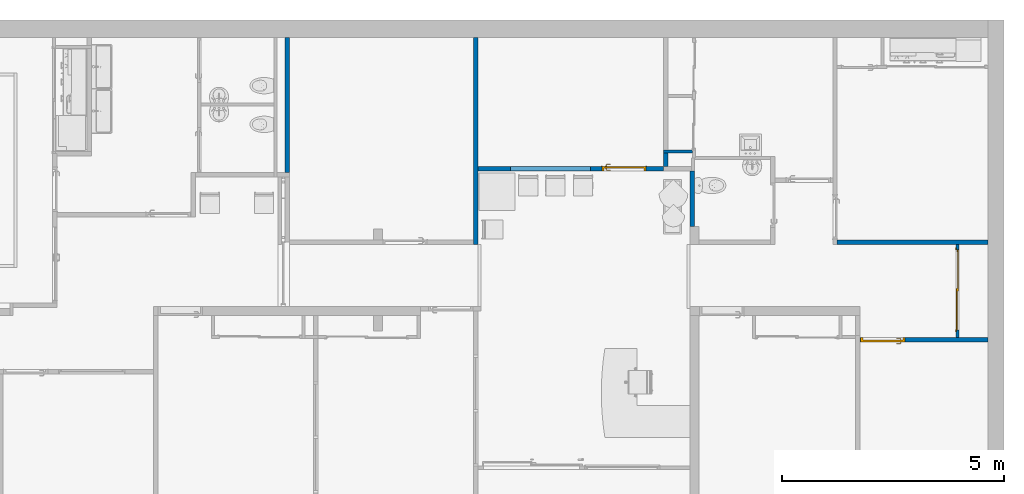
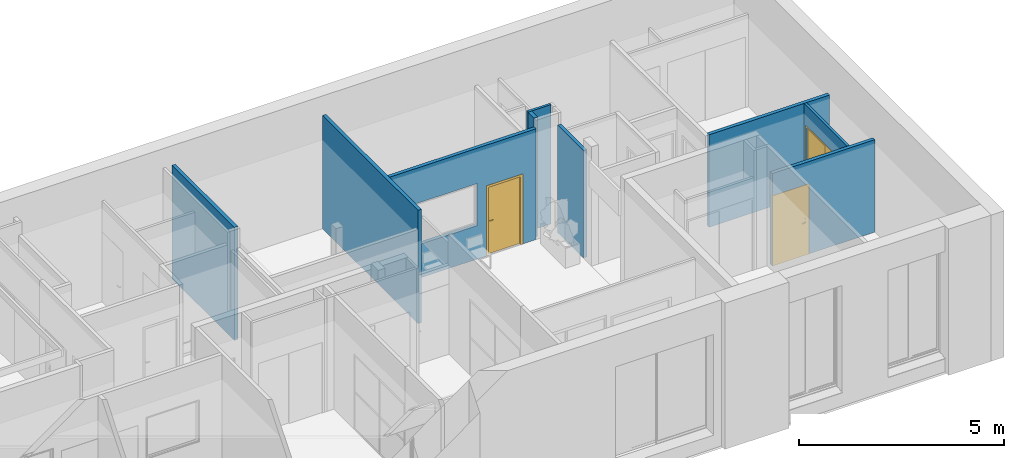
# One storey, part 15 of 32: 9 walls, 3 doors, 4 openings.
"""IFC2X3 building model written with IfcOpenShell, lengths in metres."""

import ifcopenshell
import ifcopenshell.guid

model = None  # the IFC model being written
_history = None  # IfcOwnerHistory: only IFC2X3 demands one
_inside = {}  # id of a spatial element -> (the spatial element, [elements in it])
_under = {}  # id of a project, library or spatial element -> (it, [spatial elements below it])
_declared = {}  # id of a project -> (the project, [libraries it declares])
_typed = {}  # id of a type object -> (the type object, [elements of that type])
_made_of = {}  # id of a material, layer set ... -> (it, [elements and type objects made of it])


def new_model(schema):
    """Start an empty IFC model of exactly this schema.

    Asked for "IFC4X3", IfcOpenShell would pick the latest addendum, in which some entities
    have other attributes; the version numbers below select the first issue.
    IFC2X3 requires an IfcOwnerHistory on every rooted entity: one is made here for all.
    """
    global model, _history
    if schema == "IFC4X3":
        model = ifcopenshell.file(schema_version=(4, 3, 0, 0))
    else:
        model = ifcopenshell.file(schema=schema)
    _inside.clear()
    _under.clear()
    _declared.clear()
    _typed.clear()
    _made_of.clear()
    _history = None
    if model.schema == "IFC2X3":
        org = make("IfcOrganization", Name="unknown")
        user = make(
            "IfcPersonAndOrganization",
            ThePerson=make("IfcPerson", FamilyName="unknown"),
            TheOrganization=org,
        )
        app = make(
            "IfcApplication",
            ApplicationDeveloper=org,
            Version="unknown",
            ApplicationFullName="unknown",
            ApplicationIdentifier="unknown",
        )
        _history = make(
            "IfcOwnerHistory",
            OwningUser=user,
            OwningApplication=app,
            ChangeAction="ADDED",
            CreationDate=0,
        )
    return model


def make(cls, **values):
    """One entity of the class cls with the attributes given. An attribute that is None is left unset."""
    return model.create_entity(
        cls, **{name: value for name, value in values.items() if value is not None}
    )


def entity(cls, *values):
    """Any entity or typed value of the class cls, its attributes in the order of the schema. None: left unset."""
    e = model.create_entity(cls)
    for i, value in enumerate(values):
        if value is not None:
            e[i] = value
    return e


def rooted(cls, **values):
    """An entity with a GlobalId (a new one), such as an element, a storey or a relation."""
    return make(cls, GlobalId=ifcopenshell.guid.new(), OwnerHistory=_history, **values)


def si_unit(unit_type, name, prefix=None):
    """IfcSIUnit, for example si_unit("LENGTHUNIT", "METRE", prefix="MILLI")."""
    return make("IfcSIUnit", UnitType=unit_type, Prefix=prefix, Name=name)


def converted_unit(unit_type, name, factor, base, dimensions=None, offset=None):
    """IfcConversionBasedUnit, such as the inch: factor (a typed value) times the base unit."""
    return make(
        "IfcConversionBasedUnit"
        if offset is None
        else "IfcConversionBasedUnitWithOffset",
        ConversionOffset=offset,
        Dimensions=None
        if dimensions is None
        else entity("IfcDimensionalExponents", *dimensions),
        UnitType=unit_type,
        Name=name,
        ConversionFactor=make(
            "IfcMeasureWithUnit", ValueComponent=factor, UnitComponent=base
        ),
    )


def derived_unit(unit_type, elements):
    """IfcDerivedUnit: a product of units, each with its exponent."""
    return make(
        "IfcDerivedUnit",
        Elements=[
            make("IfcDerivedUnitElement", Unit=unit, Exponent=power)
            for unit, power in elements
        ],
        UnitType=unit_type,
    )


def assignment(units):
    """IfcUnitAssignment: the units of a project."""
    return None if units is None else make("IfcUnitAssignment", Units=units)


def point(xyz):
    """IfcCartesianPoint."""
    return None if xyz is None else make("IfcCartesianPoint", Coordinates=xyz)


def direction(xyz):
    """IfcDirection."""
    return None if xyz is None else make("IfcDirection", DirectionRatios=xyz)


def frame(location, z_axis=None, x_axis=None):
    """IfcAxis2Placement3D, a coordinate frame: its origin and axes. An axis left out is left unset."""
    return make(
        "IfcAxis2Placement3D",
        Location=point(location),
        Axis=direction(z_axis),
        RefDirection=direction(x_axis),
    )


def frame_2d(location, x_axis=None):
    """IfcAxis2Placement2D, a coordinate frame in the plane: its origin and x axis."""
    return make(
        "IfcAxis2Placement2D", Location=point(location), RefDirection=direction(x_axis)
    )


def origin():
    """The frame at (0, 0, 0) with its axes left unset."""
    return frame((0.0, 0.0, 0.0))


def origin_2d_with_axis():
    """The frame at (0, 0) in the plane with the x axis (1, 0) written out."""
    return frame_2d((0.0, 0.0), x_axis=(1.0, 0.0))


def place(relative_to, where):
    """IfcLocalPlacement: puts the frame where relative to a parent placement (None: the world)."""
    return make(
        "IfcLocalPlacement", PlacementRelTo=relative_to, RelativePlacement=where
    )


def context(
    kind, dimensions, precision=None, world=None, true_north=None, identifier=None
):
    """IfcGeometricRepresentationContext, for example the 3D "Model" context."""
    return make(
        "IfcGeometricRepresentationContext",
        ContextIdentifier=identifier,
        ContextType=kind,
        CoordinateSpaceDimension=dimensions,
        Precision=precision,
        WorldCoordinateSystem=world,
        TrueNorth=true_north,
    )


def subcontext(parent, identifier, kind, view, scale=None):
    """IfcGeometricRepresentationSubContext, for example "Body" below "Model"."""
    return make(
        "IfcGeometricRepresentationSubContext",
        ContextIdentifier=identifier,
        ContextType=kind,
        ParentContext=parent,
        TargetScale=scale,
        TargetView=view,
    )


def project(units=None, contexts=None):
    """IfcProject with its units and contexts."""
    return rooted(
        "IfcProject",
        Name="project",
        RepresentationContexts=contexts,
        UnitsInContext=assignment(units),
    )


def spatial(cls, under=None, at=None, **own):
    """A site, building, storey or space (cls), placed at a placement, below another one or the project."""
    s = rooted(cls, ObjectPlacement=at, **own)
    if under is not None:
        _under.setdefault(under.id(), (under, []))[1].append(s)
    return s


def polyline(points):
    """IfcPolyline through the points."""
    return make("IfcPolyline", Points=[point(p) for p in points])


def circle_curve(where, radius):
    """IfcCircle in the frame where."""
    return make("IfcCircle", Position=where, Radius=radius)


def parameter(value):
    """IfcParameterValue: where a trimmed curve begins or ends, as a parameter of its basis curve."""
    return model.create_entity("IfcParameterValue", value)


def trimmed(basis, trim1, trim2, sense, master):
    """IfcTrimmedCurve: the piece of a basis curve between two trims."""
    return make(
        "IfcTrimmedCurve",
        BasisCurve=basis,
        Trim1=trim1,
        Trim2=trim2,
        SenseAgreement=sense,
        MasterRepresentation=master,
    )


def segment(curve, same_sense, transition):
    """IfcCompositeCurveSegment."""
    return make(
        "IfcCompositeCurveSegment",
        Transition=transition,
        SameSense=same_sense,
        ParentCurve=curve,
    )


def composite_curve(segments, self_intersect=None):
    """IfcCompositeCurve: segments joined end to end."""
    return make("IfcCompositeCurve", Segments=segments, SelfIntersect=self_intersect)


def profile(cls, at=None, kind="AREA", **sizes):
    """A parametric profile (cls). Its sizes go by their IFC names, for example OverallWidth=200.0."""
    return make(cls, ProfileType=kind, Position=at, **sizes)


def rectangle(**sizes):
    """IfcRectangleProfileDef."""
    return profile("IfcRectangleProfileDef", **sizes)


def outline(outer, holes=None, kind="AREA"):
    """IfcArbitraryClosedProfileDef: a profile drawn as a closed curve; with holes, ...WithVoids."""
    if holes is None:
        return make("IfcArbitraryClosedProfileDef", ProfileType=kind, OuterCurve=outer)
    return make(
        "IfcArbitraryProfileDefWithVoids",
        ProfileType=kind,
        OuterCurve=outer,
        InnerCurves=holes,
    )


def extrude(swept, where, along, depth):
    """IfcExtrudedAreaSolid: the profile swept, set in the frame where, extruded along a direction by depth."""
    return make(
        "IfcExtrudedAreaSolid",
        SweptArea=swept,
        Position=where,
        ExtrudedDirection=direction(along),
        Depth=depth,
    )


def faces_of(points, faces, orient=None, outer=None):
    """IfcFace entities. A face is a list of loops; a loop is a list of indices into points, from 0.

    orient and outer hold one flag for each loop. By default every Orientation is true, the
    first loop of a face is its IfcFaceOuterBound and the others are IfcFaceBound.
    """
    made = []
    for i, loops in enumerate(faces):
        bounds = []
        for j, loop in enumerate(loops):
            is_outer = j == 0 if outer is None else outer[i][j]
            bounds.append(
                make(
                    "IfcFaceOuterBound" if is_outer else "IfcFaceBound",
                    Bound=make("IfcPolyLoop", Polygon=[points[k] for k in loop]),
                    Orientation=True if orient is None else orient[i][j],
                )
            )
        made.append(make("IfcFace", Bounds=bounds))
    return made


def faceted_brep(points, faces, orient=None, outer=None, voids=None):
    """IfcFacetedBrep: a solid bounded by flat faces; with voids (closed shells), ...WithVoids."""
    shared = [point(p) for p in points]
    hull = make("IfcClosedShell", CfsFaces=faces_of(shared, faces, orient, outer))
    if voids is None:
        return make("IfcFacetedBrep", Outer=hull)
    return make(
        "IfcFacetedBrepWithVoids",
        Outer=hull,
        Voids=[
            make(cls, CfsFaces=faces_of(shared, fs, o, b)) for cls, fs, o, b in voids
        ],
    )


def shape(context_of_items, identifier, shape_type, items):
    """IfcShapeRepresentation: the items that make up one representation, for example the "Body"."""
    return make(
        "IfcShapeRepresentation",
        ContextOfItems=context_of_items,
        RepresentationIdentifier=identifier,
        RepresentationType=shape_type,
        Items=items,
    )


def source(mapping_origin, context_of_items, identifier, shape_type, items):
    """IfcRepresentationMap: a shape defined once, which mapped items show again and again."""
    return make(
        "IfcRepresentationMap",
        MappingOrigin=mapping_origin,
        MappedRepresentation=shape(context_of_items, identifier, shape_type, items),
    )


def transform(
    local_origin,
    x_axis=None,
    y_axis=None,
    z_axis=None,
    scale=None,
    scale2=None,
    scale3=None,
    uniform=True,
):
    """IfcCartesianTransformationOperator3D, or its non-uniform kind. x_axis, y_axis, z_axis: its Axis1, 2, 3."""
    if uniform:
        return make(
            "IfcCartesianTransformationOperator3D",
            Axis1=direction(x_axis),
            Axis2=direction(y_axis),
            LocalOrigin=point(local_origin),
            Scale=scale,
            Axis3=direction(z_axis),
        )
    return make(
        "IfcCartesianTransformationOperator3DnonUniform",
        Axis1=direction(x_axis),
        Axis2=direction(y_axis),
        LocalOrigin=point(local_origin),
        Scale=scale,
        Axis3=direction(z_axis),
        Scale2=scale2,
        Scale3=scale3,
    )


def mapped(mapping_source, mapping_target):
    """IfcMappedItem: shows the shape of a source again, moved by a transform."""
    return make(
        "IfcMappedItem", MappingSource=mapping_source, MappingTarget=mapping_target
    )


def material(Name=None, Category=None):
    """IfcMaterial."""
    return make("IfcMaterial", Name=Name, Category=Category)


def material_list(materials):
    """IfcMaterialList."""
    return make("IfcMaterialList", Materials=materials)


def layer(
    of_material, thickness, ventilated=None, Name=None, Category=None, Priority=None
):
    """IfcMaterialLayer: one layer of a wall or slab, of a material (None: an air gap)."""
    return make(
        "IfcMaterialLayer",
        Material=of_material,
        LayerThickness=thickness,
        IsVentilated=ventilated,
        Name=Name,
        Category=Category,
        Priority=Priority,
    )


def layer_set(layers, Name=None):
    """IfcMaterialLayerSet."""
    return make("IfcMaterialLayerSet", MaterialLayers=layers, LayerSetName=Name)


def layer_usage(for_layer_set, set_direction, sense, offset, extent=None):
    """IfcMaterialLayerSetUsage: how a layer set lies in its element."""
    return make(
        "IfcMaterialLayerSetUsage",
        ForLayerSet=for_layer_set,
        LayerSetDirection=set_direction,
        DirectionSense=sense,
        OffsetFromReferenceLine=offset,
        ReferenceExtent=extent,
    )


def made_of(thing, what):
    """Note that an element or type object is made of a material, layer set ...; save() writes the relation."""
    if what is not None:
        _made_of.setdefault(what.id(), (what, []))[1].append(thing)
    return thing


def type_object(cls, material=None, **own):
    """A type object (cls), such as IfcWallType, which elements share."""
    return made_of(rooted(cls, **own), material)


def type_shapes(of_type, sources):
    """Give a type object the sources (RepresentationMaps) that its elements show as mapped items."""
    of_type.RepresentationMaps = sources


def element(
    cls,
    number,
    at=None,
    inside=None,
    cuts=None,
    type_object=None,
    material=None,
    context=None,
    identifier="Body",
    shape_type=None,
    held_by="IfcProductDefinitionShape",
    body=None,
    shapes=None,
    **own,
):
    """One element of the class cls, such as IfcWall. Its Tag is "e" and its number.

    at: its placement. inside: the storey or other place that contains it. cuts: it is an
    opening in that element (IfcRelVoidsElement). A single representation is given by context,
    identifier, shape_type and body (its items); several are given by shapes. held_by: the class
    of the entity that holds the representations. save() writes the other relations.
    """
    e = rooted(cls, Tag="e%d" % number, ObjectPlacement=at, **own)
    if body is not None:
        shapes = [shape(context, identifier, shape_type, body)]
    if shapes is not None:
        e.Representation = make(held_by, Representations=shapes)
    if inside is not None:
        _inside.setdefault(inside.id(), (inside, []))[1].append(e)
    if cuts is not None:
        rooted(
            "IfcRelVoidsElement", RelatingBuildingElement=cuts, RelatedOpeningElement=e
        )
    if type_object is not None:
        _typed.setdefault(type_object.id(), (type_object, []))[1].append(e)
    return made_of(e, material)


def fill(opening, filler):
    """IfcRelFillsElement: the door or window that sits in an opening."""
    return rooted(
        "IfcRelFillsElement",
        RelatingOpeningElement=opening,
        RelatedBuildingElement=filler,
    )


def aggregate(whole, parts):
    """IfcRelAggregates: a whole, such as a stair, and the parts it consists of."""
    return rooted("IfcRelAggregates", RelatingObject=whole, RelatedObjects=parts)


def save(model, path):
    """Write the relations noted so far, then the file.

    IfcRelAggregates (storeys below a building ...), IfcRelContainedInSpatialStructure (elements
    in a storey), IfcRelDefinesByType, IfcRelAssociatesMaterial and IfcRelDeclares: one each for
    every whole, place, type object, material and project.
    """
    for whole, parts in _under.values():
        aggregate(whole, parts)
    for where, things in _inside.values():
        rooted(
            "IfcRelContainedInSpatialStructure",
            RelatedElements=things,
            RelatingStructure=where,
        )
    for kind, things in _typed.values():
        rooted("IfcRelDefinesByType", RelatedObjects=things, RelatingType=kind)
    for what, things in _made_of.values():
        rooted("IfcRelAssociatesMaterial", RelatedObjects=things, RelatingMaterial=what)
    for by, libraries in _declared.values():
        rooted("IfcRelDeclares", RelatingContext=by, RelatedDefinitions=libraries)
    model.write(path)


model = new_model("IFC2X3")

# Units and contexts
model_context = context("Model", 3, precision=1e-05, world=origin(), true_north=direction((6.12303176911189e-17, 1.0)))
plan_context = context("Plan", 3, precision=1e-05, world=origin(), true_north=direction((6.12303176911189e-17, 1.0)))
body_context = subcontext(model_context, "Body", "Model", "MODEL_VIEW")
ifc_project = project(units=[si_unit("LENGTHUNIT", "METRE"), si_unit("AREAUNIT", "SQUARE_METRE"), si_unit("VOLUMEUNIT", "CUBIC_METRE"), converted_unit("PLANEANGLEUNIT", "DEGREE", entity("IfcRatioMeasure", 0.0174532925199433), si_unit("PLANEANGLEUNIT", "RADIAN"), dimensions=[0, 0, 0, 0, 0, 0, 0]), si_unit("MASSUNIT", "GRAM", prefix="KILO"), derived_unit("MASSDENSITYUNIT", [(si_unit("MASSUNIT", "GRAM", prefix="KILO"), 1), (si_unit("LENGTHUNIT", "METRE"), -3)]), derived_unit("MOMENTOFINERTIAUNIT", [(si_unit("LENGTHUNIT", "METRE"), 4)]), si_unit("TIMEUNIT", "SECOND"), si_unit("FREQUENCYUNIT", "HERTZ"), si_unit("THERMODYNAMICTEMPERATUREUNIT", "DEGREE_CELSIUS"), derived_unit("THERMALTRANSMITTANCEUNIT", [(si_unit("MASSUNIT", "GRAM", prefix="KILO"), 1), (si_unit("THERMODYNAMICTEMPERATUREUNIT", "KELVIN"), -1), (si_unit("TIMEUNIT", "SECOND"), -3)]), derived_unit("VOLUMETRICFLOWRATEUNIT", [(si_unit("LENGTHUNIT", "METRE"), 3), (si_unit("TIMEUNIT", "SECOND"), -1)]), si_unit("ELECTRICCURRENTUNIT", "AMPERE"), si_unit("ELECTRICVOLTAGEUNIT", "VOLT"), si_unit("POWERUNIT", "WATT"), si_unit("FORCEUNIT", "NEWTON", prefix="KILO"), si_unit("ILLUMINANCEUNIT", "LUX"), si_unit("LUMINOUSFLUXUNIT", "LUMEN"), si_unit("LUMINOUSINTENSITYUNIT", "CANDELA"), derived_unit("USERDEFINED", [(si_unit("MASSUNIT", "GRAM", prefix="KILO"), -1), (si_unit("LENGTHUNIT", "METRE"), -2), (si_unit("TIMEUNIT", "SECOND"), 3), (si_unit("LUMINOUSFLUXUNIT", "LUMEN"), 1)]), derived_unit("LINEARVELOCITYUNIT", [(si_unit("LENGTHUNIT", "METRE"), 1), (si_unit("TIMEUNIT", "SECOND"), -1)]), si_unit("PRESSUREUNIT", "PASCAL"), derived_unit("USERDEFINED", [(si_unit("LENGTHUNIT", "METRE"), -2), (si_unit("MASSUNIT", "GRAM", prefix="KILO"), 1), (si_unit("TIMEUNIT", "SECOND"), -2)]), derived_unit("LINEARFORCEUNIT", [(si_unit("MASSUNIT", "GRAM", prefix="KILO"), 1), (si_unit("LENGTHUNIT", "METRE"), 1), (si_unit("TIMEUNIT", "SECOND"), -2), (si_unit("LENGTHUNIT", "METRE"), -1)]), derived_unit("PLANARFORCEUNIT", [(si_unit("MASSUNIT", "GRAM", prefix="KILO"), 1), (si_unit("LENGTHUNIT", "METRE"), 1), (si_unit("TIMEUNIT", "SECOND"), -2), (si_unit("LENGTHUNIT", "METRE"), -2)])], contexts=[model_context, plan_context])

# Site, building, storey
site_placement = place(None, origin())
site = spatial("IfcSite", under=ifc_project, at=site_placement, Name="Default", CompositionType="ELEMENT")
building_placement = place(site_placement, origin())
building = spatial("IfcBuilding", under=site, at=building_placement, CompositionType="ELEMENT")
storey_placement = place(building_placement, origin())
storey = spatial("IfcBuildingStorey", under=building, at=storey_placement, Name="0 Mairie RDC 0.00", CompositionType="ELEMENT", Elevation=-1.94916083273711e-14)

# Walls
ifc_material_1 = material(Name="Plâtre")
ifc_layer_1 = layer(ifc_material_1, 0.0125)
ifc_layer_2 = layer(ifc_material_1, 0.0125)
ifc_material_2 = material(Name="Maçonnerie - Isolant")
ifc_layer_3 = layer(ifc_material_2, 0.05)
ifc_layer_4 = layer(ifc_material_1, 0.0125)
ifc_layer_5 = layer(ifc_material_1, 0.0125)
ifc_layer_set_1 = layer_set([ifc_layer_1, ifc_layer_2, ifc_layer_3, ifc_layer_4, ifc_layer_5], Name="Mur de base:A cloison placostil 98 sèche")
ifc_layer_usage_1 = layer_usage(ifc_layer_set_1, "AXIS2", "NEGATIVE", 0.05)
wall_type_1 = type_object("IfcWallType", Name="Murs : Mur de base : A cloison placostil 98 sèche", PredefinedType="STANDARD", material=ifc_layer_set_1)
wall_1_placement = place(storey_placement, frame((-9.75844714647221, -6.63253403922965, 0.0), z_axis=(0.0, 0.0, 1.0), x_axis=(0.0, 1.0, 0.0)))
element("IfcWallStandardCase", 1, at=wall_1_placement, inside=storey, type_object=wall_type_1, material=ifc_layer_usage_1, Name="Murs : Mur de base : A cloison placostil 98 sèche", ObjectType="Mur de base:A cloison placostil 98 sèche", context=body_context, shape_type="SweptSolid", body=[
    extrude(rectangle(XDim=4.65977029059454, YDim=0.0999999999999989, at=frame_2d((2.32988514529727, 0.0), x_axis=(-1.0, 0.0))), origin(), (0.0, 0.0, 1.0), 3.37),
])
ifc_layer_usage_2 = layer_usage(ifc_layer_set_1, "AXIS2", "POSITIVE", -0.05)
wall_2_placement = place(storey_placement, frame((-1.61775525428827, -6.58378247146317, 0.0)))
element("IfcWallStandardCase", 2, at=wall_2_placement, inside=storey, type_object=wall_type_1, material=ifc_layer_usage_2, Name="Murs : Mur de base : A cloison placostil 98 sèche", ObjectType="Mur de base:A cloison placostil 98 sèche", context=body_context, shape_type="SweptSolid", body=[
    extrude(rectangle(XDim=3.39537085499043, YDim=0.0999999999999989, at=frame_2d((1.69768542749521, 0.0), x_axis=(-1.0, 0.0))), origin(), (0.0, 0.0, 1.0), 2.75),
])

# Wall, opening, door
ifc_layer_usage_3 = layer_usage(ifc_layer_set_1, "AXIS2", "POSITIVE", -0.05)
wall_3_placement = place(storey_placement, frame((-1.10639222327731, -8.78110384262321, 0.0)))
wall_3 = element("IfcWallStandardCase", 3, at=wall_3_placement, inside=storey, type_object=wall_type_1, material=ifc_layer_usage_3, Name="Murs : Mur de base : A cloison placostil 98 sèche", ObjectType="Mur de base:A cloison placostil 98 sèche", context=body_context, shape_type="SweptSolid", body=[
    extrude(rectangle(XDim=2.88400782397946, YDim=0.0999999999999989, at=frame_2d((1.44200391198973, 0.0), x_axis=(-1.0, 0.0))), origin(), (0.0, 0.0, 1.0), 2.75),
])
opening_1_placement = place(wall_3_placement, frame((1.01499999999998, 0.0499999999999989, 0.0)))
opening_1 = element("IfcOpeningElement", 4, at=opening_1_placement, cuts=wall_3, Name="Portes : Int. Simple : PP (0.89m x 2.04m):1", ObjectType="Opening", context=body_context, shape_type="SweptSolid", body=[
    extrude(rectangle(XDim=2.075, YDim=1.0, at=frame_2d((1.0375, 0.5), x_axis=(1.0, 0.0))), frame((0.0, 0.0, 0.0), z_axis=(0.0, -1.0, 0.0), x_axis=(0.0, 0.0, 1.0)), (0.0, 0.0, 1.0), 0.1),
])
ifc_material_3 = material(Name="Finition Peinture - Blanc satiné")
ifc_material_4 = material(Name="Bois - Cadre de porte")
ifc_material_list_1 = material_list([ifc_material_3, ifc_material_4])
ifc_material_5 = material(Name="Bois - Panneau de porte")
ifc_material_list_2 = material_list([ifc_material_5, ifc_material_4, ifc_material_3])
door_style_1 = type_object("IfcDoorStyle", Name="Portes : Int. Simple : PP (0.89m x 2.04m)", ConstructionType="NOTDEFINED", OperationType="NOTDEFINED", ParameterTakesPrecedence=False, Sizeable=False, material=ifc_material_list_2)
shared_shape_1 = source(origin(), body_context, "Body", "SolidModel", [
    extrude(outline(composite_curve([segment(polyline([(-0.104999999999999, -0.02), (0.104999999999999, -0.0199999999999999)]), True, "CONTINUOUS"), segment(trimmed(circle_curve(frame_2d((0.0703589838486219, 0.0), x_axis=(0.0, 1.0)), 0.0399999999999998), [parameter(240.000000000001)], [parameter(300.0)], True, "PARAMETER"), True, "CONTINUOUS"), segment(polyline([(0.104999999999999, 0.0199999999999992), (-0.105, 0.0200000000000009)]), True, "CONTINUOUS"), segment(trimmed(circle_curve(frame_2d((-0.0703589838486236, 0.0), x_axis=(0.0, 1.0)), 0.0399999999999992), [parameter(59.9999999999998)], [parameter(120.0)], True, "PARAMETER"), True, "CONTINUOUS")], self_intersect=False)), frame((0.975000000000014, 0.0, 0.975000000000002), z_axis=(0.0, -1.0, 0.0), x_axis=(0.0, 0.0, 1.0)), (0.0, 0.0, 1.0), 0.005),
    extrude(outline(composite_curve([segment(polyline([(-0.105, -0.02), (0.105, -0.02)]), True, "CONTINUOUS"), segment(trimmed(circle_curve(frame_2d((0.0703589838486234, 0.0), x_axis=(0.0, -1.0)), 0.0399999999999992), [parameter(59.9999999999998)], [parameter(120.0)], True, "PARAMETER"), True, "CONTINUOUS"), segment(polyline([(0.104999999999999, 0.0200000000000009), (-0.105, 0.0199999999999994)]), True, "CONTINUOUS"), segment(trimmed(circle_curve(frame_2d((-0.0703589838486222, 0.0), x_axis=(0.0, -1.0)), 0.0399999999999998), [parameter(240.0)], [parameter(300.0)], True, "PARAMETER"), True, "CONTINUOUS")], self_intersect=False)), frame((0.975000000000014, 0.0449999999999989, 0.975000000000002), z_axis=(0.0, -1.0, 0.0), x_axis=(0.0, 0.0, -1.0)), (0.0, 0.0, 1.0), 0.00500000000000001),
    extrude(rectangle(XDim=0.93, YDim=0.04, at=origin_2d_with_axis()), frame((0.570000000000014, 0.02, 0.0), z_axis=(0.0, 0.0, 1.0), x_axis=(-1.0, 0.0, 0.0)), (0.0, 0.0, 1.0), 2.04),
    extrude(outline(polyline([(0.484999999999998, -1.03750000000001), (0.514999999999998, -1.03750000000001), (0.514999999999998, 1.0525), (-0.514999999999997, 1.0525), (-0.514999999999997, -1.0375), (-0.484999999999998, -1.03750000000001), (-0.484999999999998, 1.02250000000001), (0.484999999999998, 1.02250000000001), (0.484999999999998, -1.03750000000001)])), frame((0.570000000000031, 0.105000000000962, 1.03750000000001), z_axis=(0.0, -1.0, 0.0), x_axis=(1.0, 0.0, 0.0)), (0.0, 0.0, 1.0), 0.00500000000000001),
    extrude(outline(polyline([(0.484999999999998, -1.03750000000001), (0.514999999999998, -1.03750000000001), (0.514999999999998, 1.0525), (-0.514999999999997, 1.0525), (-0.514999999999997, -1.0375), (-0.484999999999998, -1.03750000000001), (-0.484999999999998, 1.02250000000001), (0.484999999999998, 1.02250000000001), (0.484999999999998, -1.03750000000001)])), frame((0.570000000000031, 0.0, 1.03750000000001), z_axis=(0.0, -1.0, 0.0), x_axis=(1.0, 0.0, 0.0)), (0.0, 0.0, 1.0), 0.005),
    faceted_brep([(0.972974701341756, -0.0050000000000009, 1.00778044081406), (0.977025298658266, -0.00500000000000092, 1.00778044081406), (0.981000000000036, -0.00500000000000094, 1.00699999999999), (0.981000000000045, -0.00500000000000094, 0.992999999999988), (0.977025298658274, -0.00500000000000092, 0.99221955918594), (0.972974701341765, -0.0050000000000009, 0.992219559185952), (0.968999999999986, -0.00500000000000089, 0.993000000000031), (0.968999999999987, -0.00500000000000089, 1.007), (0.977025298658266, -0.0310045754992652, 1.00778044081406), (0.981000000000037, -0.0326509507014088, 1.007), (0.972974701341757, -0.0293267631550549, 1.00778044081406), (0.959298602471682, -0.0430028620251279, 1.00778044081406), (0.960976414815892, -0.0470534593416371, 1.00778044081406), (0.968999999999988, -0.0276803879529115, 1.007), (0.968999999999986, -0.0276803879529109, 0.993000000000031), (0.972974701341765, -0.0293267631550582, 0.992219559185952), (0.977025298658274, -0.0310045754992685, 0.99221955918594), (0.960976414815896, -0.0470534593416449, 0.99221955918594), (0.959298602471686, -0.0430028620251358, 0.992219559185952), (0.981000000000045, -0.0326509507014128, 0.992999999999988), (0.962622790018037, -0.051028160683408, 1.007), (0.957652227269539, -0.0390281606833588, 1.007), (0.957652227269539, -0.0390281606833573, 0.993000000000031), (0.96262279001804, -0.0510281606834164, 0.992999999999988), (0.874981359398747, -0.0510281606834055, 1.007), (0.874981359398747, -0.0470534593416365, 1.00778044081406), (0.874981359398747, -0.0430028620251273, 1.00778044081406), (0.874981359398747, -0.0390281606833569, 1.00699999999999), (0.874981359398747, -0.0390281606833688, 0.993000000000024), (0.874981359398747, -0.0430028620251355, 0.992219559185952), (0.874981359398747, -0.0470534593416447, 0.99221955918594), (0.874981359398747, -0.0510281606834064, 0.992999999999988), (0.917139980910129, -0.045028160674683, 1.0078786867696), (0.922692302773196, -0.051028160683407, 1.007), (0.916316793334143, -0.039028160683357, 1.007), (0.916316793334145, -0.0390281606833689, 0.993000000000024), (0.917139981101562, -0.0450281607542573, 0.992121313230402), (0.922692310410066, -0.0510281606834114, 0.992999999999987)], [[[0, 1, 2, 3, 4, 5, 6, 7]], [[2, 1, 8, 9]], [[1, 0, 10, 11, 12, 8]], [[0, 7, 13, 10]], [[14, 13, 7, 6]], [[5, 15, 14, 6]], [[5, 4, 16, 17, 18, 15]], [[3, 19, 16, 4]], [[9, 19, 3, 2]], [[9, 8, 12, 20]], [[10, 13, 21, 11]], [[22, 21, 13, 14]], [[14, 15, 18, 22]], [[16, 19, 23, 17]], [[20, 23, 19, 9]], [[24, 25, 26, 27, 28, 29, 30, 31]], [[32, 25, 33]], [[33, 25, 24]], [[33, 20, 12]], [[11, 34, 32]], [[34, 11, 21]], [[27, 26, 34]], [[32, 26, 25]], [[32, 34, 26]], [[32, 33, 12]], [[11, 32, 12]], [[21, 22, 35, 28, 27, 34]], [[36, 29, 35]], [[30, 36, 37]], [[18, 35, 22]], [[29, 28, 35]], [[30, 37, 31]], [[37, 17, 23]], [[36, 17, 37]], [[36, 18, 17]], [[36, 35, 18]], [[29, 36, 30]], [[23, 20, 33, 24, 31, 37]]]),
    faceted_brep([(0.972974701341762, 0.0449999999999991, 0.992219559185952), (0.977025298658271, 0.0449999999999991, 0.99221955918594), (0.981000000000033, 0.044999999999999, 0.992999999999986), (0.981000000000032, 0.044999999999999, 1.007), (0.977025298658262, 0.0449999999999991, 1.00778044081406), (0.972974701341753, 0.0449999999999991, 1.00778044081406), (0.968999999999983, 0.0449999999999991, 1.007), (0.968999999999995, 0.0449999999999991, 0.993000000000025), (0.968999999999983, 0.067485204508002, 1.007), (0.968999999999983, 0.0674852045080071, 0.993000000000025), (0.972974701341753, 0.0691315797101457, 1.00778044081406), (0.977025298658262, 0.070809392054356, 1.00778044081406), (0.960838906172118, 0.0869957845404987, 1.00778044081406), (0.959161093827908, 0.0829451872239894, 1.00778044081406), (0.981000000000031, 0.0724557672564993, 1.007), (0.981000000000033, 0.0724557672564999, 0.992999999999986), (0.977025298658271, 0.0708093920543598, 0.99221955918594), (0.972974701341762, 0.0691315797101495, 0.992219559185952), (0.959161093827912, 0.0829451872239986, 0.992219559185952), (0.960838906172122, 0.0869957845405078, 0.99221955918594), (0.957514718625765, 0.0789704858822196, 1.007), (0.957514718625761, 0.0789704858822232, 0.993000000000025), (0.962485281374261, 0.0909704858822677, 1.007), (0.962485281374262, 0.0909704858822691, 0.992999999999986), (0.874954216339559, 0.0829451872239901, 1.00778044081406), (0.874954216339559, 0.0869957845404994, 1.00778044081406), (0.874954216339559, 0.0909704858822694, 1.007), (0.874954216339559, 0.0909704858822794, 0.992999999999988), (0.874954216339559, 0.086995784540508, 0.99221955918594), (0.874954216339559, 0.0829451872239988, 0.992219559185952), (0.874954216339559, 0.0789704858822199, 0.993000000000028), (0.874954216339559, 0.0789704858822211, 1.007), (0.916234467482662, 0.0789704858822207, 1.007), (0.916234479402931, 0.0789704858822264, 0.993000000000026), (0.917057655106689, 0.0849704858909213, 1.0078786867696), (0.922554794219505, 0.0909704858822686, 1.007), (0.922554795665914, 0.0909704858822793, 0.992999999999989), (0.917057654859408, 0.0849704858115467, 0.992121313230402)], [[[0, 1, 2, 3, 4, 5, 6, 7]], [[8, 9, 7, 6]], [[5, 10, 8, 6]], [[5, 4, 11, 12, 13, 10]], [[3, 14, 11, 4]], [[14, 3, 2, 15]], [[2, 1, 16, 15]], [[1, 0, 17, 18, 19, 16]], [[0, 7, 9, 17]], [[20, 21, 9, 8]], [[8, 10, 13, 20]], [[14, 22, 12, 11]], [[23, 22, 14, 15]], [[15, 16, 19, 23]], [[17, 9, 21, 18]], [[24, 25, 26, 27, 28, 29, 30, 31]], [[21, 20, 32, 31, 30, 33]], [[34, 24, 32]], [[25, 34, 35]], [[13, 32, 20]], [[24, 31, 32]], [[25, 35, 26]], [[35, 12, 22]], [[34, 12, 35]], [[34, 13, 12]], [[34, 32, 13]], [[24, 34, 25]], [[22, 23, 36, 27, 26, 35]], [[37, 28, 36]], [[36, 28, 27]], [[36, 23, 19]], [[18, 33, 37]], [[33, 18, 21]], [[30, 29, 33]], [[37, 29, 28]], [[37, 33, 29]], [[37, 36, 19]], [[18, 37, 19]]]),
    faceted_brep([(1.07000000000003, 0.0, 0.0), (1.03500000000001, 0.0, 0.0), (1.03500000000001, 0.040000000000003, 0.0), (1.02000000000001, 0.040000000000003, 0.0), (1.02000000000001, 0.100000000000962, 0.0), (1.07000000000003, 0.100000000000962, 0.0), (1.07000000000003, 0.100000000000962, 2.07500000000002), (1.07000000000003, 0.0, 2.07500000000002), (1.02000000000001, 0.100000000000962, 2.025), (0.120000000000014, 0.100000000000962, 2.025), (0.120000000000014, 0.100000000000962, 0.0), (0.0699999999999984, 0.100000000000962, 0.0), (0.0699999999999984, 0.100000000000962, 2.07500000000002), (1.02000000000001, 0.040000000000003, 2.025), (1.03500000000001, 0.040000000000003, 2.04), (0.105000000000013, 0.040000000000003, 2.04), (0.105000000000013, 0.040000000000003, 0.0), (0.120000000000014, 0.040000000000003, 0.0), (0.120000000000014, 0.040000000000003, 2.025), (1.03500000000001, 0.0, 2.04), (0.0699999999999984, 0.0, 2.07500000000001), (0.0699999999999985, 0.0, 0.0), (0.105000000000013, 0.0, 0.0), (0.105000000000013, 0.0, 2.04)], [[[0, 1, 2, 3, 4, 5]], [[5, 6, 7, 0]], [[4, 8, 9, 10, 11, 12, 6, 5]], [[3, 13, 8, 4]], [[2, 14, 15, 16, 17, 18, 13, 3]], [[1, 19, 14, 2]], [[0, 7, 20, 21, 22, 23, 19, 1]], [[12, 11, 21, 20]], [[21, 11, 10, 17, 16, 22]], [[18, 17, 10, 9]], [[23, 22, 16, 15]], [[6, 12, 20, 7]], [[13, 18, 9, 8]], [[19, 23, 15, 14]]]),
])
type_shapes(door_style_1, [shared_shape_1])
door_1_placement = place(opening_1_placement, frame((-1.07000000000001, -0.0999999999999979, 0.0)))
door_1 = element("IfcDoor", 5, at=door_1_placement, inside=storey, type_object=door_style_1, material=ifc_material_list_1, Name="Portes : Int. Simple : PP (0.89m x 2.04m)", ObjectType="Int. Simple:PP (0.89m x 2.04m)", OverallHeight=2.075, OverallWidth=1.0, context=body_context, shape_type="MappedRepresentation", body=[
    mapped(shared_shape_1, transform((0.0, 0.0, 0.0), scale=1.0)),
])
fill(opening_1, door_1)

# Wall, openings, door
ifc_layer_usage_4 = layer_usage(ifc_layer_set_1, "AXIS2", "POSITIVE", -0.05)
wall_4_placement = place(storey_placement, frame((-9.70844714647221, -4.92821541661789, 0.0)))
wall_4 = element("IfcWallStandardCase", 6, at=wall_4_placement, inside=storey, type_object=wall_type_1, material=ifc_layer_usage_4, Name="Murs : Mur de base : A cloison placostil 98 sèche", ObjectType="Mur de base:A cloison placostil 98 sèche", context=body_context, shape_type="SweptSolid", body=[
    extrude(rectangle(XDim=4.18095044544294, YDim=0.0999999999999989, at=frame_2d((2.09047522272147, 0.0), x_axis=(-1.0, 0.0))), origin(), (0.0, 0.0, 1.0), 3.3),
])
opening_2_placement = place(wall_4_placement, frame((2.79103046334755, -0.05, 0.0)))
opening_2 = element("IfcOpeningElement", 7, at=opening_2_placement, cuts=wall_4, Name="Portes : Int. Simple : PP (0.89m x 2.04m):1", ObjectType="Opening", context=body_context, shape_type="SweptSolid", body=[
    extrude(rectangle(XDim=2.075, YDim=1.0, at=frame_2d((1.0375, 0.5), x_axis=(1.0, 0.0))), frame((0.0, 0.0, 0.0), z_axis=(0.0, 1.0, 0.0), x_axis=(0.0, 0.0, 1.0)), (0.0, 0.0, 1.0), 0.1),
])
opening_3_placement = place(wall_4_placement, frame((0.733950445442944, -0.0499999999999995, 1.0)))
element("IfcOpeningElement", 8, at=opening_3_placement, cuts=wall_4, Name="Fenêtres : WINDSOR Window Fixed Signature : Fixed-Window_B02M1S100100-White 1.25x1.00:1", ObjectType="Opening", context=body_context, shape_type="SweptSolid", body=[
    extrude(rectangle(XDim=1.25, YDim=1.8, at=frame_2d((0.624999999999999, 0.9), x_axis=(-1.0, 0.0))), frame((0.0, 0.0, 0.0), z_axis=(0.0, 1.0, 0.0), x_axis=(0.0, 0.0, 1.0)), (0.0, 0.0, 1.0), 0.1),
])
ifc_material_list_3 = material_list([ifc_material_3, ifc_material_4])
door_2_placement = place(opening_2_placement, frame((1.07000000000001, 0.0999999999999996, 0.0), z_axis=(0.0, 0.0, 1.0), x_axis=(-1.0, 0.0, 0.0)))
door_2 = element("IfcDoor", 9, at=door_2_placement, inside=storey, type_object=door_style_1, material=ifc_material_list_3, Name="Portes : Int. Simple : PP (0.89m x 2.04m)", ObjectType="Int. Simple:PP (0.89m x 2.04m)", OverallHeight=2.075, OverallWidth=1.0, context=body_context, shape_type="MappedRepresentation", body=[
    mapped(shared_shape_1, transform((0.0, 0.0, 0.0), scale=1.0)),
])
fill(opening_2, door_2)

# Walls
ifc_layer_usage_5 = layer_usage(ifc_layer_set_1, "AXIS2", "NEGATIVE", 0.05)
wall_5_placement = place(storey_placement, frame((-4.8774967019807, -6.23378247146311, 0.0), z_axis=(0.0, 0.0, 1.0), x_axis=(0.0, 1.0, 0.0)))
element("IfcWallStandardCase", 10, at=wall_5_placement, inside=storey, type_object=wall_type_1, material=ifc_layer_usage_5, Name="Murs : Mur de base : A cloison placostil 98 sèche", ObjectType="Mur de base:A cloison placostil 98 sèche", context=body_context, shape_type="SweptSolid", body=[
    extrude(rectangle(XDim=1.25556705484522, YDim=0.0999999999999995, at=frame_2d((0.627783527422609, -2.70616862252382e-16), x_axis=(-1.0, 0.0))), origin(), (0.0, 0.0, 1.0), 3.2),
])
ifc_layer_usage_6 = layer_usage(ifc_layer_set_1, "AXIS2", "NEGATIVE", 0.05)
wall_6_placement = place(storey_placement, frame((-5.47749670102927, -4.87821541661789, 0.0), z_axis=(0.0, 0.0, 1.0), x_axis=(0.0, 1.0, 0.0)))
element("IfcWallStandardCase", 11, at=wall_6_placement, inside=storey, type_object=wall_type_1, material=ifc_layer_usage_6, Name="Murs : Mur de base : A cloison placostil 98 sèche", ObjectType="Mur de base:A cloison placostil 98 sèche", context=body_context, shape_type="SweptSolid", body=[
    extrude(rectangle(XDim=0.297409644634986, YDim=0.100000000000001, at=frame_2d((0.148704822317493, 0.0), x_axis=(-1.0, 0.0))), origin(), (0.0, 0.0, 1.0), 3.55),
])
ifc_layer_usage_7 = layer_usage(ifc_layer_set_1, "AXIS2", "NEGATIVE", 0.05)
wall_7_placement = place(storey_placement, frame((-13.9967760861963, -1.97276374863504, 0.0), z_axis=(0.0, 0.0, 1.0), x_axis=(0.0, -1.0, 0.0)))
element("IfcWallStandardCase", 12, at=wall_7_placement, inside=storey, type_object=wall_type_1, material=ifc_layer_usage_7, Name="Murs : Mur de base : A cloison placostil 98 sèche", ObjectType="Mur de base:A cloison placostil 98 sèche", context=body_context, shape_type="SweptSolid", body=[
    extrude(rectangle(XDim=3.0471581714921, YDim=0.0999999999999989, at=frame_2d((1.52357908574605, 0.0), x_axis=(-1.0, 0.0))), origin(), (0.0, 0.0, 1.0), 3.37),
])
ifc_layer_6 = layer(ifc_material_1, 0.01)
ifc_layer_7 = layer(ifc_material_2, 0.05)
ifc_layer_8 = layer(ifc_material_1, 0.01)
ifc_layer_set_2 = layer_set([ifc_layer_6, ifc_layer_7, ifc_layer_8], Name="Mur de base:A cloison placostil 72 sèche")
ifc_layer_usage_8 = layer_usage(ifc_layer_set_2, "AXIS2", "NEGATIVE", 0.035)
wall_type_2 = type_object("IfcWallType", Name="Murs : Mur de base : A cloison placostil 72 sèche", PredefinedType="STANDARD", material=ifc_layer_set_2)
wall_8_placement = place(storey_placement, frame((-5.52749670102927, -4.54580577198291, 0.0)))
element("IfcWallStandardCase", 13, at=wall_8_placement, inside=storey, type_object=wall_type_2, material=ifc_layer_usage_8, Name="Murs : Mur de base : A cloison placostil 72 sèche", ObjectType="Mur de base:A cloison placostil 72 sèche", context=body_context, shape_type="SweptSolid", body=[
    extrude(rectangle(XDim=0.64999999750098, YDim=0.0700000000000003, at=frame_2d((0.32499999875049, 0.0), x_axis=(-1.0, 0.0))), origin(), (0.0, 0.0, 1.0), 3.55),
])

# Wall, opening, door
ifc_layer_usage_9 = layer_usage(ifc_layer_set_2, "AXIS2", "NEGATIVE", 0.035)
wall_9_placement = place(storey_placement, frame((1.09290125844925, -8.73110384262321, 0.0), z_axis=(0.0, 0.0, 1.0), x_axis=(0.0, 1.0, 0.0)))
wall_9 = element("IfcWallStandardCase", 14, at=wall_9_placement, inside=storey, type_object=wall_type_2, material=ifc_layer_usage_9, Name="Murs : Mur de base : A cloison placostil 72 sèche", ObjectType="Mur de base:A cloison placostil 72 sèche", context=body_context, shape_type="SweptSolid", body=[
    extrude(rectangle(XDim=2.09732137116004, YDim=0.0700000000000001, at=frame_2d((1.04866068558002, 0.0), x_axis=(-1.0, 0.0))), origin(), (0.0, 0.0, 1.0), 2.75),
])
opening_4_placement = place(wall_9_placement, frame((0.173660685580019, -0.0350000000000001, 0.0)))
opening_4 = element("IfcOpeningElement", 15, at=opening_4_placement, cuts=wall_9, Name="Portes : Placard coulissante - 2 panneaux : Placard coulissante - 2 panneaux 1.80:1", ObjectType="Opening", context=body_context, shape_type="SweptSolid", body=[
    extrude(rectangle(XDim=2.09999999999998, YDim=1.8, at=frame_2d((1.04999999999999, 0.9), x_axis=(1.0, 0.0))), frame((0.0, 0.0, 0.0), z_axis=(0.0, 1.0, 0.0), x_axis=(0.0, 0.0, 1.0)), (0.0, 0.0, 1.0), 0.07),
])
ifc_material_6 = material(Name="Placard - Profil")
ifc_material_7 = material(Name="Placard - Encadrement")
ifc_material_8 = material(Name="Placard - Porte")
ifc_material_list_4 = material_list([ifc_material_6, ifc_material_7, ifc_material_8])
ifc_material_list_5 = material_list([ifc_material_6, ifc_material_6, ifc_material_6, ifc_material_6, ifc_material_7, ifc_material_8, ifc_material_8])
door_style_2 = type_object("IfcDoorStyle", Name="Portes : Placard coulissante - 2 panneaux : Placard coulissante - 2 panneaux 1.80", ConstructionType="NOTDEFINED", OperationType="SLIDING_TO_RIGHT", ParameterTakesPrecedence=False, Sizeable=False, material=ifc_material_list_5)
shared_shape_2 = source(origin(), body_context, "Body", "SweptSolid", [
    extrude(outline(composite_curve([segment(polyline([(-0.0250000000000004, -0.00100000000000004), (0.0249999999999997, -0.00100000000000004)]), True, "CONTINUOUS"), segment(polyline([(0.0249999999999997, -0.00100000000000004), (0.0249999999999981, 0.00100000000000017)]), True, "CONTINUOUS"), segment(trimmed(circle_curve(frame_2d((0.0, -0.212860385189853), x_axis=(-1.0, 0.0)), 0.215316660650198), [parameter(263.332459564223)], [parameter(276.667540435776)], True, "PARAMETER"), True, "CONTINUOUS"), segment(polyline([(-0.0250000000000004, 0.00100000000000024), (-0.0250000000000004, -0.00100000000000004)]), True, "CONTINUOUS")], self_intersect=False)), frame((1.775, 0.0089999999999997, 0.0), z_axis=(0.0, 0.0, 1.0), x_axis=(-1.0, 0.0, 0.0)), (0.0, 0.0, 1.0), 2.1),
    extrude(outline(composite_curve([segment(polyline([(-0.0250000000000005, -0.00100000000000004), (0.0249999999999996, -0.00100000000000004)]), True, "CONTINUOUS"), segment(polyline([(0.0249999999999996, -0.00100000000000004), (0.0249999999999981, 0.00100000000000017)]), True, "CONTINUOUS"), segment(trimmed(circle_curve(frame_2d((0.0, -0.212860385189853), x_axis=(-1.0, 0.0)), 0.215316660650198), [parameter(263.332459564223)], [parameter(276.667540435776)], True, "PARAMETER"), True, "CONTINUOUS"), segment(polyline([(-0.0250000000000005, 0.00100000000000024), (-0.0250000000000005, -0.00100000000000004)]), True, "CONTINUOUS")], self_intersect=False)), frame((0.899999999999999, 0.00900000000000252, 0.0), z_axis=(0.0, 0.0, 1.0), x_axis=(-1.0, 0.0, 0.0)), (0.0, 0.0, 1.0), 2.1),
    extrude(outline(composite_curve([segment(polyline([(-0.0250000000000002, -0.00100000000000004), (0.0249999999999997, -0.00100000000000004)]), True, "CONTINUOUS"), segment(polyline([(0.0249999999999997, -0.00100000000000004), (0.0249999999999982, 0.00100000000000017)]), True, "CONTINUOUS"), segment(trimmed(circle_curve(frame_2d((0.0, -0.212860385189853), x_axis=(-1.0, 0.0)), 0.215316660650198), [parameter(263.332459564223)], [parameter(276.667540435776)], True, "PARAMETER"), True, "CONTINUOUS"), segment(polyline([(-0.0250000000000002, 0.00100000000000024), (-0.0250000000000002, -0.00100000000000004)]), True, "CONTINUOUS")], self_intersect=False)), frame((0.899999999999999, 0.0340000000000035, 0.0), z_axis=(0.0, 0.0, 1.0), x_axis=(-1.0, 0.0, 0.0)), (0.0, 0.0, 1.0), 2.1),
    extrude(outline(composite_curve([segment(polyline([(-0.0250000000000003, -0.00100000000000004), (0.0249999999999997, -0.00100000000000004)]), True, "CONTINUOUS"), segment(polyline([(0.0249999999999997, -0.00100000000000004), (0.0249999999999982, 0.00100000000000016)]), True, "CONTINUOUS"), segment(trimmed(circle_curve(frame_2d((0.0, -0.212860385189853), x_axis=(-1.0, 0.0)), 0.215316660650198), [parameter(263.332459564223)], [parameter(276.667540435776)], True, "PARAMETER"), True, "CONTINUOUS"), segment(polyline([(-0.0250000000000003, 0.00100000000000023), (-0.0250000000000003, -0.00100000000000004)]), True, "CONTINUOUS")], self_intersect=False)), frame((0.0249999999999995, 0.0340000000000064, 0.0), z_axis=(0.0, 0.0, 1.0), x_axis=(-1.0, 0.0, 0.0)), (0.0, 0.0, 1.0), 2.1),
    extrude(outline(polyline([(-1.06149999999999, -0.948), (1.08649999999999, -0.948), (1.08649999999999, 0.948), (-1.06149999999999, 0.948), (-1.06149999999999, 0.898), (1.03649999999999, 0.898), (1.03649999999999, -0.898), (-1.06149999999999, -0.898), (-1.06149999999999, -0.948)])), frame((0.9, -0.00300000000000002, 1.06149999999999), z_axis=(0.0, 1.0, 0.0), x_axis=(0.0, 0.0, 1.0)), (0.0, 0.0, 1.0), 0.00300000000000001),
    extrude(rectangle(XDim=0.020000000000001, YDim=0.925000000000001, at=frame_2d((0.0, -8.32667268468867e-17), x_axis=(1.0, 0.0))), frame((1.3375, 0.0200000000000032, 0.0), z_axis=(0.0, 0.0, 1.0), x_axis=(0.0, 1.0, 0.0)), (0.0, 0.0, 1.0), 2.1),
    extrude(rectangle(XDim=0.02, YDim=0.924999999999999, at=origin_2d_with_axis()), frame((0.462499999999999, 0.0450000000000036, 0.0), z_axis=(0.0, 0.0, 1.0), x_axis=(0.0, 1.0, 0.0)), (0.0, 0.0, 1.0), 2.1),
])
type_shapes(door_style_2, [shared_shape_2])
door_3_placement = place(opening_4_placement, frame((1.8, 0.0700000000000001, 0.0), z_axis=(0.0, 0.0, 1.0), x_axis=(-1.0, 0.0, 0.0)))
door_3 = element("IfcDoor", 16, at=door_3_placement, inside=storey, type_object=door_style_2, material=ifc_material_list_4, Name="Portes : Placard coulissante - 2 panneaux : Placard coulissante - 2 panneaux 1.80", ObjectType="Placard coulissante - 2 panneaux:Placard coulissante - 2 panneaux 1.80", OverallHeight=2.09999999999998, OverallWidth=1.8, context=body_context, shape_type="MappedRepresentation", body=[
    mapped(shared_shape_2, transform((0.0, 0.0, 0.0), scale=1.0)),
])
fill(opening_4, door_3)

save(model, "model.ifc")
